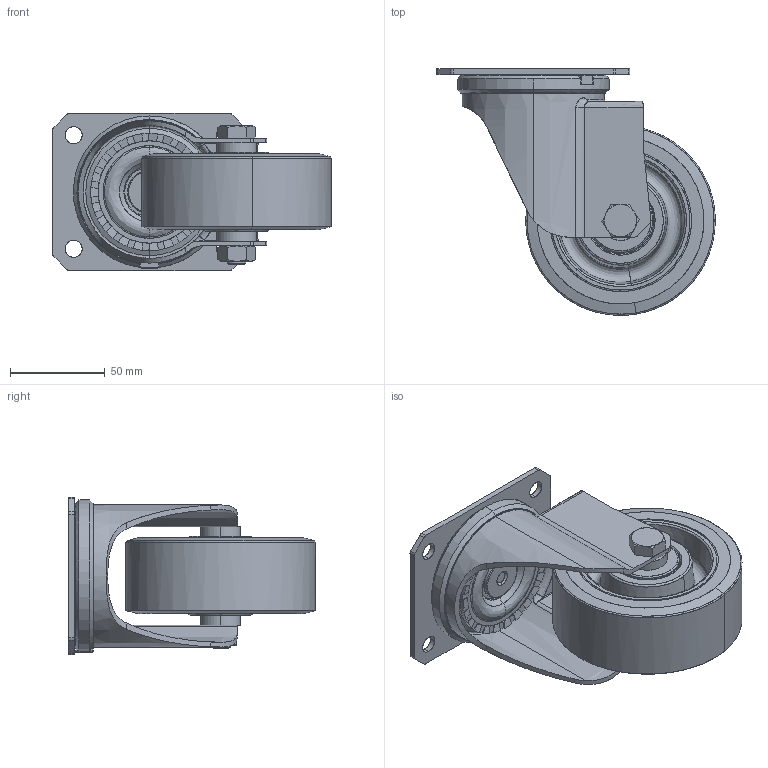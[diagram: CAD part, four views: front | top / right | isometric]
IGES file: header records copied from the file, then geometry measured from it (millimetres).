
Start section: SolidWorks IGES file using analytic representation for surfaces
Global section: file name: S:\Tyokansio\KULJETUSPYÖRÄT\LK\LS\IGES\401510_.igs; native system: SolidWorks 2014; preprocessor: SolidWorks 2014; author: markola; date: 150914.094150; units: millimetre
Bounding box: 147 x 130.17 x 83 mm (x, y, z)
Surface area: 114214.4 mm2 (no closed solid volume)
Topology: 0 solids, 0 shells, 476 faces, 6548 edges, 6544 vertices
Faces by surface type: bspline 368, revolution 108
